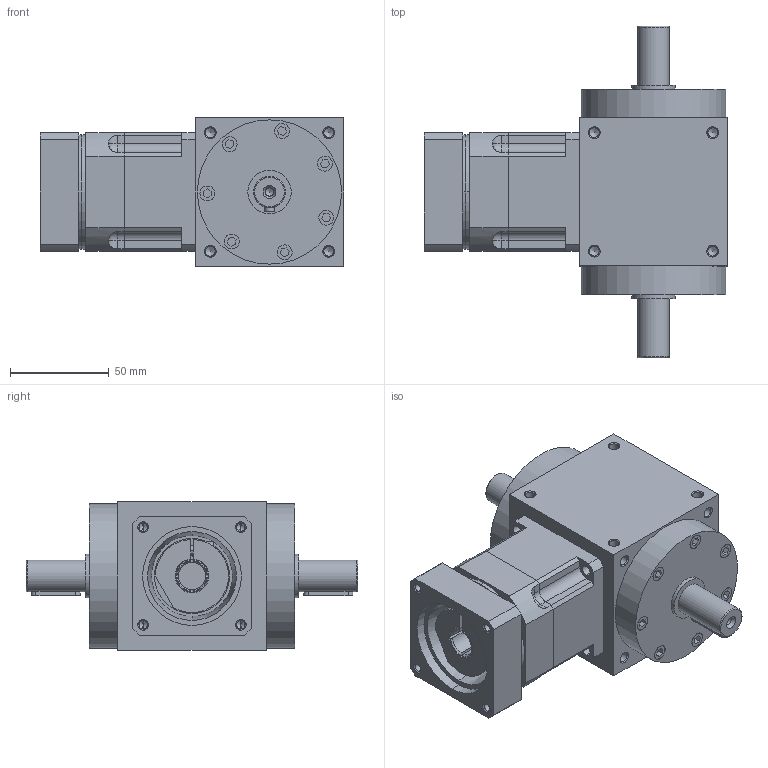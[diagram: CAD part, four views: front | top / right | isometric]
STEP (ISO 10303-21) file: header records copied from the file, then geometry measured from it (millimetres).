
FILE_DESCRIPTION(/* description */ (''),/* implementation_level */ '2;1');
FILE_NAME(/* name */ 'AT-075-FL(3-10)(14-50-70-M5).stp',/* time_stamp */ '2024-12-06T17:35:42+08:00',/* author */ (''),/* organization */ (''),/* preprocessor_version */ 'ST-DEVELOPER v16',/* originating_system */ 'SIEMENS PLM Software NX 10.0',/* authorisation */ '');
FILE_SCHEMA (('AP203_CONFIGURATION_CONTROLLED_3D_DESIGN_OF_MECHANICAL_PARTS_AND_ASSEMBLIES_MIM_LF { 1 0 10303 403 2 1 2}'));
Length unit declared in the file: millimetre
Products named in the file (1): AT-075-FL_3-10__14-50-70-M4__stp
Bounding box: 153.5 x 168 x 75 mm (x, y, z)
Volume: 791026 mm3; surface area: 103726.3 mm2
Topology: 9 solids, 10 shells, 504 faces, 1272 edges, 805 vertices
Faces by surface type: plane 226, cylinder 180, cone 78, torus 16, sphere 4
Full cylindrical faces by diameter (mm): 4.2 x2, 5 x40, 7.5 x14, 14.5 x1, 16 x2, 22 x2, 31.475 x1, 73 x2
Entity records: 14654 total; most frequent: CARTESIAN_POINT 2941, DIRECTION 2502, ORIENTED_EDGE 2180, EDGE_CURVE 1090, AXIS2_PLACEMENT_3D 956, VERTEX_POINT 769, EDGE_LOOP 685, LINE 590
